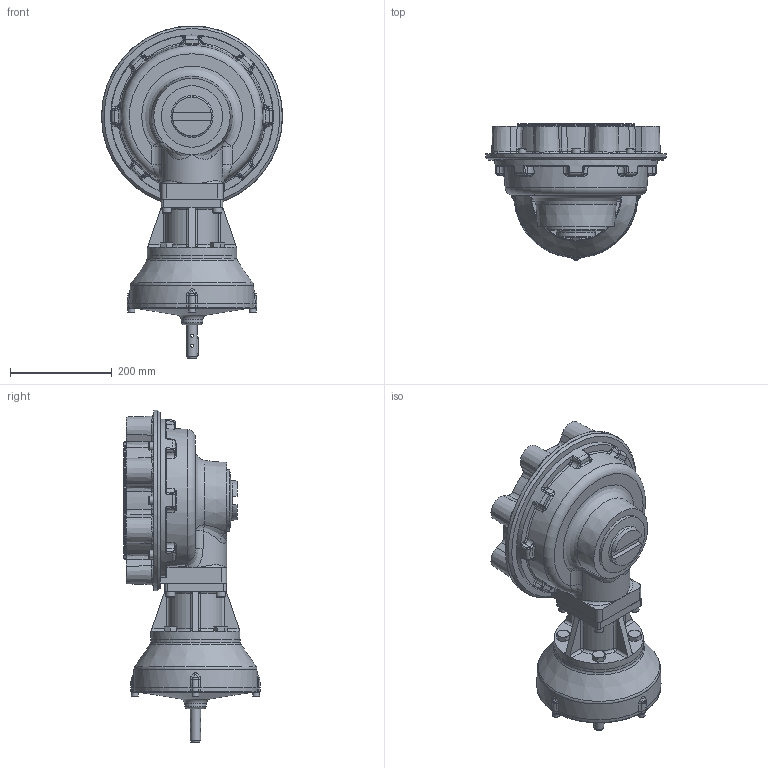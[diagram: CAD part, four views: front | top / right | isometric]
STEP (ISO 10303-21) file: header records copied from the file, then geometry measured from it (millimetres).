
FILE_DESCRIPTION( ( 'Unknown' ), '1' );
FILE_NAME( 'X:/CURRENT/PUB/Hob/HOB-2014/HOB-MPR/HOB-MPR-STP_FILES/PUB-HOB9MPR10-30.4-MAN-F30.stp', 'Unknown', ( 'Unknown' ), ( 'Unknown' ), 'PSStep 16.0.42', 'Unknown', ' ' );
FILE_SCHEMA( ( 'AUTOMOTIVE_DESIGN { 1 0 10303 214 1 1 1 1 }' ) );
Length unit declared in the file: millimetre
Products named in the file (31): 1; 2; 3; 4; trelleborg_trea00200-n7mm_b5c67wtxxcj74kwnwb2box077_01; 5; 6; 7; 8; 9; 10; 11; 12; 13; 14; 15; 16; 17; 18; 19; 20; 21; 22; 23; 24; 25; 26; 27; 28; 29; 30
Bounding box: 355 x 267.62 x 651.48 mm (x, y, z)
Surface area: 1491294.6 mm2 (no closed solid volume)
Topology: 0 solids, 3338 shells, 3338 faces, 17200 edges, 16773 vertices
Faces by surface type: cylinder 1083, plane 927, cone 617, bspline 371, torus 290, sphere 50
Full cylindrical faces by diameter (mm): 6 x2, 6.647 x8, 8 x4, 8.5 x12, 10 x8, 10.2 x4, 10.5 x8, 12 x4, 12.5 x4, 13.27 x4, 13.835 x8, 16 x12, 16.5 x4, 17.294 x16, 18 x4, 19 x1, 20 x2, 20.5 x2, 22.098 x1, 23 x1, 25 x1, 29.5 x1, 29.583 x1, 30 x3, 50 x2, 55.115 x1, 66.675 x1, 90 x2, 94 x1, 95.27 x1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
Entity records: 279003 total; most frequent: CARTESIAN_POINT 129089, DIRECTION 26320, VERTEX_POINT 16625, ORIENTED_EDGE 16594, EDGE_CURVE 16594, AXIS2_PLACEMENT_3D 10200, CIRCLE 7162, LINE 5920
